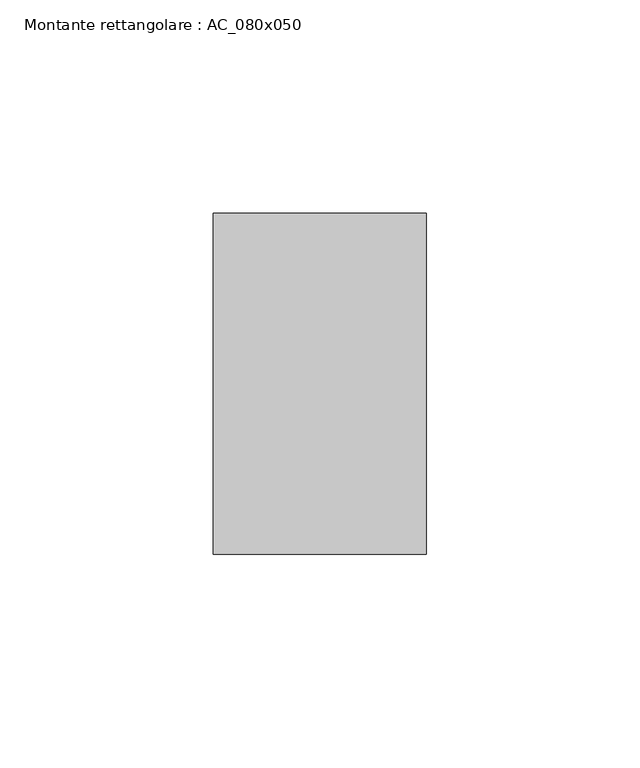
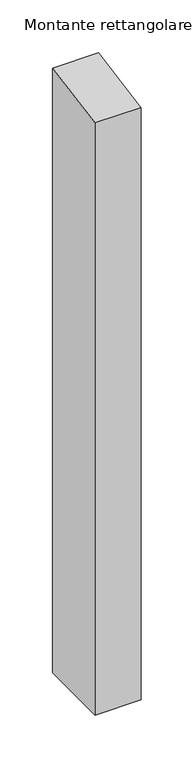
"""IFC4 building model written with IfcOpenShell, lengths in millimetres: member geometry, Montante rettangolare : AC_080x050."""

from ifc_helpers import new_model, si_unit, frame, origin, place, context, project, spatial, polyline, outline, extrude, source, transform, mapped, element, save


def montante_rettangolare_ac_080x050_6bba0ead(model_context):
    return source(origin(), model_context, "Body", "SweptSolid", [
        extrude(outline(polyline([(-40.0, -7.1829394), (40.0, 7.1829394), (40.0, -689.3356215), (-40.0, -689.3356215), (-40.0, -7.1829394)])), frame((-50.0, 0.0, 0.0), z_axis=(1.0, 0.0, 0.0), x_axis=(0.0, 1.0, 0.0)), (0.0, 0.0, 1.0), 50.0),
    ])


if __name__ == "__main__":
    model = new_model("IFC4")
    model_context = context("Model", 3, world=origin())
    ifc_project = project(units=[si_unit("LENGTHUNIT", "METRE", prefix="MILLI")], contexts=[model_context])
    site = spatial("IfcSite", under=ifc_project)
    building = spatial("IfcBuilding", under=site)
    placement = place(None, origin())
    montante_rettangolare_ac_080x050_shape = montante_rettangolare_ac_080x050_6bba0ead(model_context)
    element("IfcMember", 1, ObjectType="Montante rettangolare : AC_080x050", at=placement, inside=building, context=model_context, shape_type="MappedRepresentation", body=[
        mapped(montante_rettangolare_ac_080x050_shape, transform((0.0, 0.0, 0.0), x_axis=(1.0, 0.0, 0.0), y_axis=(0.0, 1.0, 0.0), z_axis=(0.0, 0.0, 1.0))),
    ])
    save(model, "model.ifc")
